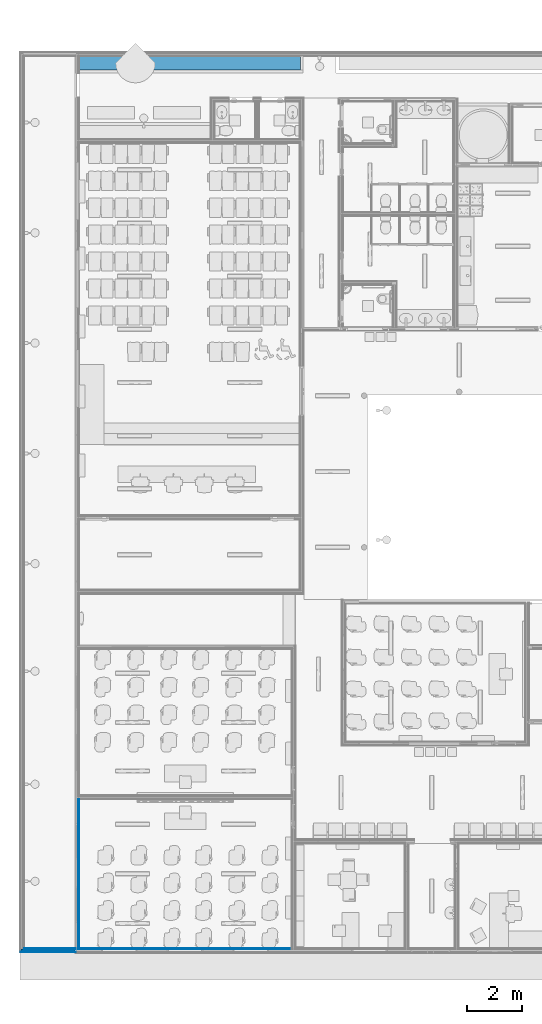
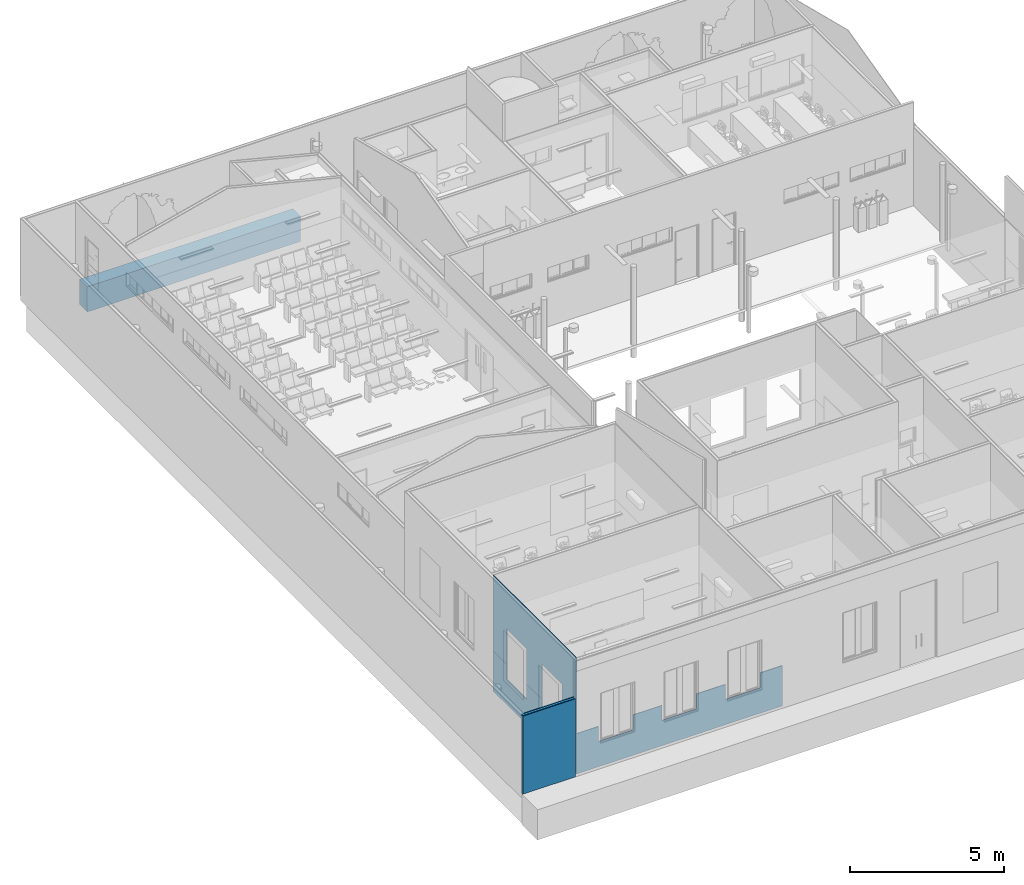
# One storey, part 2 of 155: 6 walls, 1 slab, 54 openings.
"""IFC2X3 building model written with IfcOpenShell, lengths in metres."""

from ifc_helpers import new_model, entity, si_unit, converted_unit, derived_unit, direction, frame, frame_2d, origin, origin_2d_with_axis, place, context, subcontext, project, spatial, rectangle, extrude, material, layer, layer_set, layer_usage, type_object, element, save


model = new_model("IFC2X3")

# Units and contexts
model_context = context("Model", 3, precision=1e-05, world=origin(), true_north=direction((6.12303176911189e-17, 1.0)))
body_context = subcontext(model_context, "Body", "Model", "MODEL_VIEW")
ifc_project = project(units=[si_unit("LENGTHUNIT", "METRE"), si_unit("AREAUNIT", "SQUARE_METRE"), si_unit("VOLUMEUNIT", "CUBIC_METRE"), converted_unit("PLANEANGLEUNIT", "DEGREE", entity("IfcRatioMeasure", 0.0174532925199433), si_unit("PLANEANGLEUNIT", "RADIAN"), dimensions=[0, 0, 0, 0, 0, 0, 0]), si_unit("MASSUNIT", "GRAM", prefix="KILO"), derived_unit("MASSDENSITYUNIT", [(si_unit("MASSUNIT", "GRAM", prefix="KILO"), 1), (si_unit("LENGTHUNIT", "METRE"), -3)]), si_unit("TIMEUNIT", "SECOND"), si_unit("FREQUENCYUNIT", "HERTZ"), si_unit("THERMODYNAMICTEMPERATUREUNIT", "DEGREE_CELSIUS"), derived_unit("THERMALTRANSMITTANCEUNIT", [(si_unit("MASSUNIT", "GRAM", prefix="KILO"), 1), (si_unit("THERMODYNAMICTEMPERATUREUNIT", "KELVIN"), -1), (si_unit("TIMEUNIT", "SECOND"), -3)]), derived_unit("VOLUMETRICFLOWRATEUNIT", [(si_unit("LENGTHUNIT", "METRE"), 3), (si_unit("TIMEUNIT", "SECOND"), -1)]), si_unit("ELECTRICCURRENTUNIT", "AMPERE"), si_unit("ELECTRICVOLTAGEUNIT", "VOLT"), si_unit("POWERUNIT", "WATT"), si_unit("FORCEUNIT", "NEWTON", prefix="KILO"), si_unit("ILLUMINANCEUNIT", "LUX"), si_unit("LUMINOUSFLUXUNIT", "LUMEN"), si_unit("LUMINOUSINTENSITYUNIT", "CANDELA"), derived_unit("USERDEFINED", [(si_unit("MASSUNIT", "GRAM", prefix="KILO"), -1), (si_unit("LENGTHUNIT", "METRE"), -2), (si_unit("TIMEUNIT", "SECOND"), 3), (si_unit("LUMINOUSFLUXUNIT", "LUMEN"), 1)]), derived_unit("LINEARVELOCITYUNIT", [(si_unit("LENGTHUNIT", "METRE"), 1), (si_unit("TIMEUNIT", "SECOND"), -1)]), si_unit("PRESSUREUNIT", "PASCAL"), derived_unit("USERDEFINED", [(si_unit("LENGTHUNIT", "METRE"), -2), (si_unit("MASSUNIT", "GRAM", prefix="KILO"), 1), (si_unit("TIMEUNIT", "SECOND"), -2)])], contexts=[model_context])

# Site, building, storey
site_placement = place(None, frame((26.9889013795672, -17.5624287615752, 0.0)))
site = spatial("IfcSite", under=ifc_project, at=site_placement, Name="Default", CompositionType="ELEMENT")
building_placement = place(site_placement, origin())
building = spatial("IfcBuilding", under=site, at=building_placement, Name="C. C. L. Monsenhor Antônio Sampaio", CompositionType="ELEMENT")
storey_placement = place(building_placement, frame((0.0, 0.0, 1.19999999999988)))
storey = spatial("IfcBuildingStorey", under=building, at=storey_placement, Name="Nível 1.2", CompositionType="ELEMENT", Elevation=1.19999999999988)

# Slab
ifc_material_1 = material(Name=".Grama")
ifc_layer_1 = layer(ifc_material_1, 1.0)
ifc_layer_set_1 = layer_set([ifc_layer_1], Name="Piso:Grama")
ifc_layer_usage_1 = layer_usage(ifc_layer_set_1, "AXIS3", "POSITIVE", 0.0)
slab_placement = place(storey_placement, origin())
element("IfcSlab", 1, at=slab_placement, inside=storey, material=ifc_layer_usage_1, Name="Piso:Grama", ObjectType="Piso:Grama", PredefinedType="FLOOR", context=body_context, shape_type="SweptSolid", body=[
    extrude(rectangle(XDim=0.500000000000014, YDim=8.01499999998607, at=frame_2d((0.0, -4.44089209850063e-16), x_axis=(1.0, 0.0))), frame((-9.98305229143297, -7.20306634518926, 0.0), z_axis=(0.0, 0.0, -1.0), x_axis=(0.0, 1.0, 0.0)), (0.0, 0.0, 1.0), 1.0),
])

# Wall, openings
ifc_material_2 = material(Name="ALVENARIA")
ifc_layer_2 = layer(ifc_material_2, 0.09)
ifc_layer_set_2 = layer_set([ifc_layer_2], Name="Parede básica:ENucleo parede 15cm")
ifc_layer_usage_2 = layer_usage(ifc_layer_set_2, "AXIS2", "POSITIVE", -0.045)
wall_type_1 = type_object("IfcWallType", Name="Parede básica:ENucleo parede 15cm", PredefinedType="STANDARD", material=ifc_layer_set_2)
wall_1_placement = place(storey_placement, frame((-14.1405522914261, -39.3780663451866, 0.0), z_axis=(0.0, 0.0, 1.0), x_axis=(-1.0, 0.0, 0.0)))
wall_1 = element("IfcWallStandardCase", 2, at=wall_1_placement, inside=storey, type_object=wall_type_1, material=ifc_layer_usage_2, Name="Parede básica:ENucleo parede 15cm", ObjectType="Parede básica:ENucleo parede 15cm", context=body_context, shape_type="SweptSolid", body=[
    extrude(rectangle(XDim=1.96994580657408, YDim=0.0899999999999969, at=frame_2d((0.984972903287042, -6.24500451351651e-17), x_axis=(-1.0, 0.0))), origin(), (0.0, 0.0, 1.0), 3.10000000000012),
])
opening_1_placement = place(wall_1_placement, origin())
element("IfcOpeningElement", 3, at=opening_1_placement, cuts=wall_1, Name="Parede básica:ENucleo parede 15cm", ObjectType="Opening", context=body_context, shape_type="SweptSolid", body=[
    extrude(rectangle(XDim=3.09999999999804, YDim=1.4, at=frame_2d((0.0, -3.33066907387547e-16), x_axis=(0.0, 1.0))), frame((-12.8899999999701, -1.56900000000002, 1.54999999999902), z_axis=(0.0, 1.0, 0.0), x_axis=(-1.0, 0.0, 0.0)), (0.0, 0.0, 1.0), 3.048),
])
opening_2_placement = place(wall_1_placement, origin())
element("IfcOpeningElement", 4, at=opening_2_placement, cuts=wall_1, Name="Parede básica:ENucleo parede 15cm", ObjectType="Opening", context=body_context, shape_type="SweptSolid", body=[
    extrude(rectangle(XDim=2.0, YDim=1.30000000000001, at=frame_2d((0.0, -3.88578058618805e-16), x_axis=(0.0, 1.0))), frame((-1.6, -1.47900000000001, 2.0), z_axis=(0.0, 1.0, 0.0), x_axis=(-1.0, 0.0, 0.0)), (0.0, 0.0, 1.0), 3.04799999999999),
])
opening_3_placement = place(wall_1_placement, origin())
element("IfcOpeningElement", 5, at=opening_3_placement, cuts=wall_1, Name="Parede básica:ENucleo parede 15cm", ObjectType="Opening", context=body_context, shape_type="SweptSolid", body=[
    extrude(rectangle(XDim=2.0, YDim=1.30000000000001, at=frame_2d((-4.9960036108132e-16, -3.88578058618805e-16), x_axis=(0.0, 1.0))), frame((-3.98, -1.47900000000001, 2.0), z_axis=(0.0, 1.0, 0.0), x_axis=(-1.0, 0.0, 0.0)), (0.0, 0.0, 1.0), 3.048),
])
opening_4_placement = place(wall_1_placement, origin())
element("IfcOpeningElement", 6, at=opening_4_placement, cuts=wall_1, Name="Parede básica:ENucleo parede 15cm", ObjectType="Opening", context=body_context, shape_type="SweptSolid", body=[
    extrude(rectangle(XDim=2.0, YDim=1.30000000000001, at=frame_2d((0.0, -3.88578058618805e-16), x_axis=(0.0, 1.0))), frame((-6.37, -1.47900000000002, 2.0), z_axis=(0.0, 1.0, 0.0), x_axis=(-1.0, 0.0, 0.0)), (0.0, 0.0, 1.0), 3.048),
])
opening_5_placement = place(wall_1_placement, origin())
element("IfcOpeningElement", 7, at=opening_5_placement, cuts=wall_1, Name="Parede básica:ENucleo parede 15cm", ObjectType="Opening", context=body_context, shape_type="SweptSolid", body=[
    extrude(rectangle(XDim=2.0, YDim=1.30000000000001, at=frame_2d((1.66533453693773e-16, 0.0), x_axis=(1.0, 0.0))), frame((-10.6799999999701, -1.47900000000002, 2.0), z_axis=(0.0, 1.0, 0.0), x_axis=(0.0, 0.0, 1.0)), (0.0, 0.0, 1.0), 3.04800000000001),
])
opening_6_placement = place(wall_1_placement, origin())
element("IfcOpeningElement", 8, at=opening_6_placement, cuts=wall_1, Name="Parede básica:ENucleo parede 15cm", ObjectType="Opening", context=body_context, shape_type="SweptSolid", body=[
    extrude(rectangle(XDim=2.0, YDim=1.30000000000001, at=frame_2d((1.66533453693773e-16, -1.11022302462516e-16), x_axis=(1.0, 0.0))), frame((-15.2199999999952, -1.56900000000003, 2.0), z_axis=(0.0, 1.0, 0.0), x_axis=(0.0, 0.0, 1.0)), (0.0, 0.0, 1.0), 3.048),
])
opening_7_placement = place(wall_1_placement, origin())
element("IfcOpeningElement", 9, at=opening_7_placement, cuts=wall_1, Name="Parede básica:ENucleo parede 15cm", ObjectType="Opening", context=body_context, shape_type="SweptSolid", body=[
    extrude(rectangle(XDim=2.0, YDim=1.30000000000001, at=frame_2d((1.66533453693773e-16, -2.22044604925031e-16), x_axis=(1.0, 0.0))), frame((-19.4699999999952, -1.56900000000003, 2.0), z_axis=(0.0, 1.0, 0.0), x_axis=(0.0, 0.0, 1.0)), (0.0, 0.0, 1.0), 3.048),
])
opening_8_placement = place(wall_1_placement, origin())
element("IfcOpeningElement", 10, at=opening_8_placement, cuts=wall_1, Name="Parede básica:ENucleo parede 15cm", ObjectType="Opening", context=body_context, shape_type="SweptSolid", body=[
    extrude(rectangle(XDim=2.0, YDim=1.30000000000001, at=frame_2d((1.66533453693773e-16, 0.0), x_axis=(1.0, 0.0))), frame((-21.8499999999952, -1.56900000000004, 2.0), z_axis=(0.0, 1.0, 0.0), x_axis=(0.0, 0.0, 1.0)), (0.0, 0.0, 1.0), 3.048),
])
opening_9_placement = place(wall_1_placement, origin())
element("IfcOpeningElement", 11, at=opening_9_placement, cuts=wall_1, Name="Parede básica:ENucleo parede 15cm", ObjectType="Opening", context=body_context, shape_type="SweptSolid", body=[
    extrude(rectangle(XDim=2.0, YDim=1.30000000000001, at=frame_2d((1.66533453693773e-16, 0.0), x_axis=(1.0, 0.0))), frame((-24.2299999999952, -1.56900000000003, 2.0), z_axis=(0.0, 1.0, 0.0), x_axis=(0.0, 0.0, 1.0)), (0.0, 0.0, 1.0), 3.048),
])

ifc_material_3 = material(Name=".CERÂMICA 10x10 BRANCA")
ifc_layer_3 = layer(ifc_material_3, 0.0035)
ifc_material_4 = material(Name="Argamassa Colante")
ifc_layer_4 = layer(ifc_material_4, 0.02)
ifc_material_5 = material(Name="4")
ifc_layer_5 = layer(ifc_material_5, 0.0015)
ifc_material_6 = material(Name="3")
ifc_layer_6 = layer(ifc_material_6, 0.005)
ifc_layer_set_3 = layer_set([ifc_layer_3, ifc_layer_4, ifc_layer_5, ifc_layer_6], Name="Parede básica:ECeramica branca 10x10cm")
ifc_layer_usage_3 = layer_usage(ifc_layer_set_3, "AXIS2", "POSITIVE", -0.015)
wall_type_2 = type_object("IfcWallType", Name="Parede básica:ECeramica branca 10x10cm", PredefinedType="STANDARD", material=ifc_layer_set_3)
wall_2_placement = place(storey_placement, frame((-6.29055229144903, -39.3180663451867, 0.0), z_axis=(0.0, 0.0, 1.0), x_axis=(-1.0, 0.0, 0.0)))
wall_2 = element("IfcWallStandardCase", 12, at=wall_2_placement, inside=storey, type_object=wall_type_2, material=ifc_layer_usage_3, Name="Parede básica:ECeramica branca 10x10cm", ObjectType="Parede básica:ECeramica branca 10x10cm", context=body_context, shape_type="SweptSolid", body=[
    extrude(rectangle(XDim=7.72999999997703, YDim=0.0299999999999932, at=frame_2d((3.86499999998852, 0.0), x_axis=(-1.0, 0.0))), origin(), (0.0, 0.0, 1.0), 1.6),
])
opening_10_placement = place(wall_2_placement, origin())
element("IfcOpeningElement", 13, at=opening_10_placement, cuts=wall_2, Name="Parede básica:ECeramica branca 10x10cm", ObjectType="Opening", context=body_context, shape_type="SweptSolid", body=[
    extrude(rectangle(XDim=2.0, YDim=1.30000000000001, at=frame_2d((0.0, -3.88578058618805e-16), x_axis=(0.0, 1.0))), frame((6.24999999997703, -1.419, 2.0), z_axis=(0.0, 1.0, 0.0), x_axis=(-1.0, 0.0, 0.0)), (0.0, 0.0, 1.0), 3.048),
])
opening_11_placement = place(wall_2_placement, origin())
element("IfcOpeningElement", 14, at=opening_11_placement, cuts=wall_2, Name="Parede básica:ECeramica branca 10x10cm", ObjectType="Opening", context=body_context, shape_type="SweptSolid", body=[
    extrude(rectangle(XDim=2.0, YDim=1.30000000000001, at=frame_2d((-4.9960036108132e-16, -3.88578058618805e-16), x_axis=(0.0, 1.0))), frame((3.86999999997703, -1.419, 2.0), z_axis=(0.0, 1.0, 0.0), x_axis=(-1.0, 0.0, 0.0)), (0.0, 0.0, 1.0), 3.048),
])
opening_12_placement = place(wall_2_placement, origin())
element("IfcOpeningElement", 15, at=opening_12_placement, cuts=wall_2, Name="Parede básica:ECeramica branca 10x10cm", ObjectType="Opening", context=body_context, shape_type="SweptSolid", body=[
    extrude(rectangle(XDim=2.0, YDim=1.30000000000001, at=frame_2d((0.0, -3.88578058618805e-16), x_axis=(0.0, 1.0))), frame((1.47999999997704, -1.41900000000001, 2.0), z_axis=(0.0, 1.0, 0.0), x_axis=(-1.0, 0.0, 0.0)), (0.0, 0.0, 1.0), 3.048),
])
opening_13_placement = place(wall_2_placement, origin())
element("IfcOpeningElement", 16, at=opening_13_placement, cuts=wall_2, Name="Parede básica:ECeramica branca 10x10cm", ObjectType="Opening", context=body_context, shape_type="SweptSolid", body=[
    extrude(rectangle(XDim=3.09999999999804, YDim=1.4, at=frame_2d((0.0, -3.33066907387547e-16), x_axis=(0.0, 1.0))), frame((-5.03999999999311, -1.509, 1.54999999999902), z_axis=(0.0, 1.0, 0.0), x_axis=(-1.0, 0.0, 0.0)), (0.0, 0.0, 1.0), 3.04799999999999),
])
opening_14_placement = place(wall_2_placement, origin())
element("IfcOpeningElement", 17, at=opening_14_placement, cuts=wall_2, Name="Parede básica:ECeramica branca 10x10cm", ObjectType="Opening", context=body_context, shape_type="SweptSolid", body=[
    extrude(rectangle(XDim=2.0, YDim=1.30000000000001, at=frame_2d((1.66533453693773e-16, 0.0), x_axis=(1.0, 0.0))), frame((-2.82999999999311, -1.41900000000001, 2.0), z_axis=(0.0, 1.0, 0.0), x_axis=(0.0, 0.0, 1.0)), (0.0, 0.0, 1.0), 3.048),
])
opening_15_placement = place(wall_2_placement, origin())
element("IfcOpeningElement", 18, at=opening_15_placement, cuts=wall_2, Name="Parede básica:ECeramica branca 10x10cm", ObjectType="Opening", context=body_context, shape_type="SweptSolid", body=[
    extrude(rectangle(XDim=2.0, YDim=1.30000000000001, at=frame_2d((1.66533453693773e-16, -1.11022302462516e-16), x_axis=(1.0, 0.0))), frame((-7.37000000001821, -1.509, 2.0), z_axis=(0.0, 1.0, 0.0), x_axis=(0.0, 0.0, 1.0)), (0.0, 0.0, 1.0), 3.04800000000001),
])
opening_16_placement = place(wall_2_placement, origin())
element("IfcOpeningElement", 19, at=opening_16_placement, cuts=wall_2, Name="Parede básica:ECeramica branca 10x10cm", ObjectType="Opening", context=body_context, shape_type="SweptSolid", body=[
    extrude(rectangle(XDim=2.0, YDim=1.30000000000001, at=frame_2d((1.66533453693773e-16, -2.22044604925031e-16), x_axis=(1.0, 0.0))), frame((-11.6200000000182, -1.509, 2.0), z_axis=(0.0, 1.0, 0.0), x_axis=(0.0, 0.0, 1.0)), (0.0, 0.0, 1.0), 3.048),
])
opening_17_placement = place(wall_2_placement, origin())
element("IfcOpeningElement", 20, at=opening_17_placement, cuts=wall_2, Name="Parede básica:ECeramica branca 10x10cm", ObjectType="Opening", context=body_context, shape_type="SweptSolid", body=[
    extrude(rectangle(XDim=2.0, YDim=1.30000000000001, at=frame_2d((1.66533453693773e-16, 0.0), x_axis=(1.0, 0.0))), frame((-14.0, -1.50900000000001, 2.0), z_axis=(0.0, 1.0, 0.0), x_axis=(0.0, 0.0, 1.0)), (0.0, 0.0, 1.0), 3.048),
])
opening_18_placement = place(wall_2_placement, origin())
element("IfcOpeningElement", 21, at=opening_18_placement, cuts=wall_2, Name="Parede básica:ECeramica branca 10x10cm", ObjectType="Opening", context=body_context, shape_type="SweptSolid", body=[
    extrude(rectangle(XDim=2.0, YDim=1.30000000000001, at=frame_2d((1.66533453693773e-16, 0.0), x_axis=(1.0, 0.0))), frame((-16.3800000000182, -1.509, 2.0), z_axis=(0.0, 1.0, 0.0), x_axis=(0.0, 0.0, 1.0)), (0.0, 0.0, 1.0), 3.048),
])

ifc_layer_usage_4 = layer_usage(ifc_layer_set_3, "AXIS2", "POSITIVE", -0.015)
wall_3_placement = place(storey_placement, frame((-14.0055522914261, -39.3030663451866, 0.0), z_axis=(0.0, 0.0, 1.0), x_axis=(0.0, 1.0, 0.0)))
wall_3 = element("IfcWallStandardCase", 22, at=wall_3_placement, inside=storey, type_object=wall_type_2, material=ifc_layer_usage_4, Name="Parede básica:ECeramica branca 10x10cm", ObjectType="Parede básica:ECeramica branca 10x10cm", context=body_context, shape_type="SweptSolid", body=[
    extrude(rectangle(XDim=5.39999999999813, YDim=0.0300000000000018, at=frame_2d((2.69999999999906, 0.0), x_axis=(-1.0, 0.0))), origin(), (0.0, 0.0, 1.0), 1.6),
])
opening_19_placement = place(wall_3_placement, origin())
element("IfcOpeningElement", 23, at=opening_19_placement, cuts=wall_3, Name="Parede básica:ECeramica branca 10x10cm", ObjectType="Opening", context=body_context, shape_type="SweptSolid", body=[
    extrude(rectangle(XDim=2.0, YDim=1.30000000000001, at=frame_2d((1.66533453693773e-16, 0.0), x_axis=(1.0, 0.0))), frame((3.87999999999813, -1.509, 2.0), z_axis=(0.0, 1.0, 0.0), x_axis=(0.0, 0.0, 1.0)), (0.0, 0.0, 1.0), 3.048),
])
opening_20_placement = place(wall_3_placement, origin())
element("IfcOpeningElement", 24, at=opening_20_placement, cuts=wall_3, Name="Parede básica:ECeramica branca 10x10cm", ObjectType="Opening", context=body_context, shape_type="SweptSolid", body=[
    extrude(rectangle(XDim=2.0, YDim=1.30000000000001, at=frame_2d((1.66533453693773e-16, 0.0), x_axis=(1.0, 0.0))), frame((1.57999999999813, -1.509, 2.0), z_axis=(0.0, 1.0, 0.0), x_axis=(0.0, 0.0, 1.0)), (0.0, 0.0, 1.0), 3.048),
])
opening_21_placement = place(wall_3_placement, origin())
element("IfcOpeningElement", 25, at=opening_21_placement, cuts=wall_3, Name="Parede básica:ECeramica branca 10x10cm", ObjectType="Opening", context=body_context, shape_type="SweptSolid", body=[
    extrude(rectangle(XDim=2.0, YDim=1.30000000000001, at=frame_2d((1.66533453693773e-16, -4.32986979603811e-15), x_axis=(1.0, 0.0))), frame((9.30000000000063, -1.509, 2.0), z_axis=(0.0, 1.0, 0.0), x_axis=(0.0, 0.0, 1.0)), (0.0, 0.0, 1.0), 3.048),
])
opening_22_placement = place(wall_3_placement, origin())
element("IfcOpeningElement", 26, at=opening_22_placement, cuts=wall_3, Name="Parede básica:ECeramica branca 10x10cm", ObjectType="Opening", context=body_context, shape_type="SweptSolid", body=[
    extrude(rectangle(XDim=2.0, YDim=1.30000000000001, at=frame_2d((4.32986979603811e-15, -3.88578058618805e-16), x_axis=(0.0, 1.0))), frame((7.10000000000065, -1.419, 2.0), z_axis=(0.0, 1.0, 0.0), x_axis=(-1.0, 0.0, 0.0)), (0.0, 0.0, 1.0), 3.048),
])
opening_23_placement = place(wall_3_placement, origin())
element("IfcOpeningElement", 27, at=opening_23_placement, cuts=wall_3, Name="Parede básica:ECeramica branca 10x10cm", ObjectType="Opening", context=body_context, shape_type="SweptSolid", body=[
    extrude(rectangle(XDim=0.569999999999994, YDim=3.06999999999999, at=frame_2d((0.0, -9.99200722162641e-16), x_axis=(1.0, 0.0))), frame((27.5300000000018, -1.509, 2.05000000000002), z_axis=(0.0, 1.0, 0.0), x_axis=(0.0, 0.0, 1.0)), (0.0, 0.0, 1.0), 3.048),
])
opening_24_placement = place(wall_3_placement, origin())
element("IfcOpeningElement", 28, at=opening_24_placement, cuts=wall_3, Name="Parede básica:ECeramica branca 10x10cm", ObjectType="Opening", context=body_context, shape_type="SweptSolid", body=[
    extrude(rectangle(XDim=0.569999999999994, YDim=3.06999999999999, at=frame_2d((0.0, -9.99200722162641e-16), x_axis=(1.0, 0.0))), frame((23.8300000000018, -1.509, 2.05000000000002), z_axis=(0.0, 1.0, 0.0), x_axis=(0.0, 0.0, 1.0)), (0.0, 0.0, 1.0), 3.048),
])
opening_25_placement = place(wall_3_placement, origin())
element("IfcOpeningElement", 29, at=opening_25_placement, cuts=wall_3, Name="Parede básica:ECeramica branca 10x10cm", ObjectType="Opening", context=body_context, shape_type="SweptSolid", body=[
    extrude(rectangle(XDim=0.569999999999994, YDim=3.06999999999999, at=frame_2d((0.0, -9.99200722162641e-16), x_axis=(1.0, 0.0))), frame((20.1300000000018, -1.509, 2.05000000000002), z_axis=(0.0, 1.0, 0.0), x_axis=(0.0, 0.0, 1.0)), (0.0, 0.0, 1.0), 3.048),
])
opening_26_placement = place(wall_3_placement, origin())
element("IfcOpeningElement", 30, at=opening_26_placement, cuts=wall_3, Name="Parede básica:ECeramica branca 10x10cm", ObjectType="Opening", context=body_context, shape_type="SweptSolid", body=[
    extrude(rectangle(XDim=0.570000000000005, YDim=2.07, at=frame_2d((5.27355936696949e-16, 0.0), x_axis=(1.0, 0.0))), frame((14.2900000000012, -1.509, 2.05000000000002), z_axis=(0.0, 1.0, 0.0), x_axis=(0.0, 0.0, 1.0)), (0.0, 0.0, 1.0), 3.048),
])
opening_27_placement = place(wall_3_placement, origin())
element("IfcOpeningElement", 31, at=opening_27_placement, cuts=wall_3, Name="Parede básica:ECeramica branca 10x10cm", ObjectType="Opening", context=body_context, shape_type="SweptSolid", body=[
    extrude(rectangle(XDim=2.15999999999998, YDim=0.879999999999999, at=origin_2d_with_axis()), frame((31.2899999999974, -1.419, 1.07999999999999), z_axis=(0.0, 1.0, 0.0), x_axis=(0.0, 0.0, 1.0)), (0.0, 0.0, 1.0), 3.048),
])

ifc_material_7 = material(Name="Acabamento Branco")
ifc_layer_7 = layer(ifc_material_7, 0.0035)
ifc_material_8 = material(Name="Massa corrida")
ifc_layer_8 = layer(ifc_material_8, 0.02)
ifc_layer_9 = layer(ifc_material_5, 0.0015)
ifc_layer_10 = layer(ifc_material_6, 0.005)
ifc_layer_set_4 = layer_set([ifc_layer_7, ifc_layer_8, ifc_layer_9, ifc_layer_10], Name="Parede básica:EPintura Branca")
ifc_layer_usage_5 = layer_usage(ifc_layer_set_4, "AXIS2", "POSITIVE", -0.015)
wall_type_3 = type_object("IfcWallType", Name="Parede básica:EPintura Branca", PredefinedType="STANDARD", material=ifc_layer_set_4)
wall_4_placement = place(storey_placement, frame((-14.0055522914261, -39.3030663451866, 1.6), z_axis=(0.0, 0.0, 1.0), x_axis=(0.0, 1.0, 0.0)))
wall_4 = element("IfcWallStandardCase", 32, at=wall_4_placement, inside=storey, type_object=wall_type_3, material=ifc_layer_usage_5, Name="Parede básica:EPintura Branca", ObjectType="Parede básica:EPintura Branca", context=body_context, shape_type="SweptSolid", body=[
    extrude(rectangle(XDim=5.39999999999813, YDim=0.0300000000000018, at=frame_2d((2.69999999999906, 0.0), x_axis=(-1.0, 0.0))), origin(), (0.0, 0.0, 1.0), 3.00000000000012),
])
opening_28_placement = place(wall_4_placement, origin())
element("IfcOpeningElement", 33, at=opening_28_placement, cuts=wall_4, Name="Parede básica:EPintura Branca", ObjectType="Opening", context=body_context, shape_type="SweptSolid", body=[
    extrude(rectangle(XDim=2.0, YDim=1.30000000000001, at=frame_2d((1.66533453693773e-16, 0.0), x_axis=(1.0, 0.0))), frame((3.87999999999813, -1.509, 0.400000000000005), z_axis=(0.0, 1.0, 0.0), x_axis=(0.0, 0.0, 1.0)), (0.0, 0.0, 1.0), 3.048),
])
opening_29_placement = place(wall_4_placement, origin())
element("IfcOpeningElement", 34, at=opening_29_placement, cuts=wall_4, Name="Parede básica:EPintura Branca", ObjectType="Opening", context=body_context, shape_type="SweptSolid", body=[
    extrude(rectangle(XDim=2.0, YDim=1.30000000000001, at=frame_2d((1.66533453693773e-16, 0.0), x_axis=(1.0, 0.0))), frame((1.57999999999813, -1.509, 0.400000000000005), z_axis=(0.0, 1.0, 0.0), x_axis=(0.0, 0.0, 1.0)), (0.0, 0.0, 1.0), 3.048),
])
opening_30_placement = place(wall_4_placement, origin())
element("IfcOpeningElement", 35, at=opening_30_placement, cuts=wall_4, Name="Parede básica:EPintura Branca", ObjectType="Opening", context=body_context, shape_type="SweptSolid", body=[
    extrude(rectangle(XDim=2.0, YDim=1.30000000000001, at=frame_2d((1.66533453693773e-16, -4.32986979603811e-15), x_axis=(1.0, 0.0))), frame((9.30000000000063, -1.509, 0.400000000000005), z_axis=(0.0, 1.0, 0.0), x_axis=(0.0, 0.0, 1.0)), (0.0, 0.0, 1.0), 3.048),
])
opening_31_placement = place(wall_4_placement, origin())
element("IfcOpeningElement", 36, at=opening_31_placement, cuts=wall_4, Name="Parede básica:EPintura Branca", ObjectType="Opening", context=body_context, shape_type="SweptSolid", body=[
    extrude(rectangle(XDim=2.0, YDim=1.30000000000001, at=frame_2d((4.32986979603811e-15, -3.88578058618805e-16), x_axis=(0.0, 1.0))), frame((7.10000000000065, -1.419, 0.400000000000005), z_axis=(0.0, 1.0, 0.0), x_axis=(-1.0, 0.0, 0.0)), (0.0, 0.0, 1.0), 3.048),
])
opening_32_placement = place(wall_4_placement, origin())
element("IfcOpeningElement", 37, at=opening_32_placement, cuts=wall_4, Name="Parede básica:EPintura Branca", ObjectType="Opening", context=body_context, shape_type="SweptSolid", body=[
    extrude(rectangle(XDim=0.569999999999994, YDim=3.06999999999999, at=frame_2d((0.0, -9.99200722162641e-16), x_axis=(1.0, 0.0))), frame((27.5300000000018, -1.509, 0.45000000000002), z_axis=(0.0, 1.0, 0.0), x_axis=(0.0, 0.0, 1.0)), (0.0, 0.0, 1.0), 3.048),
])
opening_33_placement = place(wall_4_placement, origin())
element("IfcOpeningElement", 38, at=opening_33_placement, cuts=wall_4, Name="Parede básica:EPintura Branca", ObjectType="Opening", context=body_context, shape_type="SweptSolid", body=[
    extrude(rectangle(XDim=0.569999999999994, YDim=3.06999999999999, at=frame_2d((0.0, -9.99200722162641e-16), x_axis=(1.0, 0.0))), frame((23.8300000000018, -1.509, 0.45000000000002), z_axis=(0.0, 1.0, 0.0), x_axis=(0.0, 0.0, 1.0)), (0.0, 0.0, 1.0), 3.048),
])
opening_34_placement = place(wall_4_placement, origin())
element("IfcOpeningElement", 39, at=opening_34_placement, cuts=wall_4, Name="Parede básica:EPintura Branca", ObjectType="Opening", context=body_context, shape_type="SweptSolid", body=[
    extrude(rectangle(XDim=0.569999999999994, YDim=3.06999999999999, at=frame_2d((0.0, -9.99200722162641e-16), x_axis=(1.0, 0.0))), frame((20.1300000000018, -1.509, 0.45000000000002), z_axis=(0.0, 1.0, 0.0), x_axis=(0.0, 0.0, 1.0)), (0.0, 0.0, 1.0), 3.048),
])
opening_35_placement = place(wall_4_placement, origin())
element("IfcOpeningElement", 40, at=opening_35_placement, cuts=wall_4, Name="Parede básica:EPintura Branca", ObjectType="Opening", context=body_context, shape_type="SweptSolid", body=[
    extrude(rectangle(XDim=0.570000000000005, YDim=2.07, at=frame_2d((5.27355936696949e-16, 0.0), x_axis=(1.0, 0.0))), frame((14.2900000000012, -1.509, 0.450000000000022), z_axis=(0.0, 1.0, 0.0), x_axis=(0.0, 0.0, 1.0)), (0.0, 0.0, 1.0), 3.048),
])
opening_36_placement = place(wall_4_placement, origin())
element("IfcOpeningElement", 41, at=opening_36_placement, cuts=wall_4, Name="Parede básica:EPintura Branca", ObjectType="Opening", context=body_context, shape_type="SweptSolid", body=[
    extrude(rectangle(XDim=2.15999999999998, YDim=0.879999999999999, at=origin_2d_with_axis()), frame((31.2899999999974, -1.419, -0.520000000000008), z_axis=(0.0, 1.0, 0.0), x_axis=(0.0, 0.0, 1.0)), (0.0, 0.0, 1.0), 3.048),
])

ifc_material_9 = material(Name="Acabamento amarelo")
ifc_layer_11 = layer(ifc_material_9, 0.0035)
ifc_layer_12 = layer(ifc_material_8, 0.02)
ifc_layer_13 = layer(ifc_material_5, 0.0015)
ifc_layer_14 = layer(ifc_material_6, 0.005)
ifc_layer_set_5 = layer_set([ifc_layer_11, ifc_layer_12, ifc_layer_13, ifc_layer_14], Name="Parede básica:EPintura amarela")
ifc_layer_usage_6 = layer_usage(ifc_layer_set_5, "AXIS2", "POSITIVE", -0.015)
wall_type_4 = type_object("IfcWallType", Name="Parede básica:EPintura amarela", PredefinedType="STANDARD", material=ifc_layer_set_5)
wall_5_placement = place(storey_placement, frame((-16.1104980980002, -39.4380663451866, 0.0)))
wall_5 = element("IfcWallStandardCase", 42, at=wall_5_placement, inside=storey, type_object=wall_type_4, material=ifc_layer_usage_6, Name="Parede básica:EPintura amarela", ObjectType="Parede básica:EPintura amarela", context=body_context, shape_type="SweptSolid", body=[
    extrude(rectangle(XDim=1.98494580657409, YDim=0.0299999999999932, at=frame_2d((0.992472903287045, -3.29597460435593e-17), x_axis=(-1.0, 0.0))), origin(), (0.0, 0.0, 1.0), 3.10000000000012),
])
opening_37_placement = place(wall_5_placement, origin())
element("IfcOpeningElement", 43, at=opening_37_placement, cuts=wall_5, Name="Parede básica:EPintura amarela", ObjectType="Opening", context=body_context, shape_type="SweptSolid", body=[
    extrude(rectangle(XDim=3.09999999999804, YDim=1.4, at=frame_2d((-3.33066907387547e-16, 0.0), x_axis=(1.0, 0.0))), frame((14.8599458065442, -1.41899999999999, 1.54999999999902), z_axis=(0.0, 1.0, 0.0), x_axis=(0.0, 0.0, 1.0)), (0.0, 0.0, 1.0), 3.048),
])
opening_38_placement = place(wall_5_placement, origin())
element("IfcOpeningElement", 44, at=opening_38_placement, cuts=wall_5, Name="Parede básica:EPintura amarela", ObjectType="Opening", context=body_context, shape_type="SweptSolid", body=[
    extrude(rectangle(XDim=2.0, YDim=1.30000000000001, at=frame_2d((1.66533453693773e-16, 0.0), x_axis=(1.0, 0.0))), frame((3.56994580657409, -1.509, 2.0), z_axis=(0.0, 1.0, 0.0), x_axis=(0.0, 0.0, 1.0)), (0.0, 0.0, 1.0), 3.04799999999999),
])
opening_39_placement = place(wall_5_placement, origin())
element("IfcOpeningElement", 45, at=opening_39_placement, cuts=wall_5, Name="Parede básica:EPintura amarela", ObjectType="Opening", context=body_context, shape_type="SweptSolid", body=[
    extrude(rectangle(XDim=2.0, YDim=1.30000000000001, at=frame_2d((1.66533453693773e-16, 0.0), x_axis=(1.0, 0.0))), frame((5.94994580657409, -1.509, 2.0), z_axis=(0.0, 1.0, 0.0), x_axis=(0.0, 0.0, 1.0)), (0.0, 0.0, 1.0), 3.048),
])
opening_40_placement = place(wall_5_placement, origin())
element("IfcOpeningElement", 46, at=opening_40_placement, cuts=wall_5, Name="Parede básica:EPintura amarela", ObjectType="Opening", context=body_context, shape_type="SweptSolid", body=[
    extrude(rectangle(XDim=2.0, YDim=1.30000000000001, at=frame_2d((1.66533453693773e-16, 0.0), x_axis=(1.0, 0.0))), frame((8.33994580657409, -1.50899999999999, 2.0), z_axis=(0.0, 1.0, 0.0), x_axis=(0.0, 0.0, 1.0)), (0.0, 0.0, 1.0), 3.048),
])
opening_41_placement = place(wall_5_placement, origin())
element("IfcOpeningElement", 47, at=opening_41_placement, cuts=wall_5, Name="Parede básica:EPintura amarela", ObjectType="Opening", context=body_context, shape_type="SweptSolid", body=[
    extrude(rectangle(XDim=2.0, YDim=1.30000000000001, at=frame_2d((0.0, -3.88578058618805e-16), x_axis=(0.0, 1.0))), frame((12.6499458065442, -1.50899999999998, 2.0), z_axis=(0.0, 1.0, 0.0), x_axis=(-1.0, 0.0, 0.0)), (0.0, 0.0, 1.0), 3.04800000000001),
])
opening_42_placement = place(wall_5_placement, origin())
element("IfcOpeningElement", 48, at=opening_42_placement, cuts=wall_5, Name="Parede básica:EPintura amarela", ObjectType="Opening", context=body_context, shape_type="SweptSolid", body=[
    extrude(rectangle(XDim=2.0, YDim=1.30000000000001, at=frame_2d((0.0, -3.88578058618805e-16), x_axis=(0.0, 1.0))), frame((17.1899458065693, -1.41899999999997, 2.0), z_axis=(0.0, 1.0, 0.0), x_axis=(-1.0, 0.0, 0.0)), (0.0, 0.0, 1.0), 3.048),
])
opening_43_placement = place(wall_5_placement, origin())
element("IfcOpeningElement", 49, at=opening_43_placement, cuts=wall_5, Name="Parede básica:EPintura amarela", ObjectType="Opening", context=body_context, shape_type="SweptSolid", body=[
    extrude(rectangle(XDim=2.0, YDim=1.30000000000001, at=frame_2d((5.55111512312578e-16, -3.88578058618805e-16), x_axis=(0.0, 1.0))), frame((21.4399458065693, -1.41899999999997, 2.0), z_axis=(0.0, 1.0, 0.0), x_axis=(-1.0, 0.0, 0.0)), (0.0, 0.0, 1.0), 3.048),
])
opening_44_placement = place(wall_5_placement, origin())
element("IfcOpeningElement", 50, at=opening_44_placement, cuts=wall_5, Name="Parede básica:EPintura amarela", ObjectType="Opening", context=body_context, shape_type="SweptSolid", body=[
    extrude(rectangle(XDim=2.0, YDim=1.30000000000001, at=frame_2d((0.0, -3.88578058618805e-16), x_axis=(0.0, 1.0))), frame((23.8199458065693, -1.41899999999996, 2.0), z_axis=(0.0, 1.0, 0.0), x_axis=(-1.0, 0.0, 0.0)), (0.0, 0.0, 1.0), 3.048),
])
opening_45_placement = place(wall_5_placement, origin())
element("IfcOpeningElement", 51, at=opening_45_placement, cuts=wall_5, Name="Parede básica:EPintura amarela", ObjectType="Opening", context=body_context, shape_type="SweptSolid", body=[
    extrude(rectangle(XDim=2.0, YDim=1.30000000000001, at=frame_2d((-4.9960036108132e-16, -3.88578058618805e-16), x_axis=(0.0, 1.0))), frame((26.1999458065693, -1.41899999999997, 2.0), z_axis=(0.0, 1.0, 0.0), x_axis=(-1.0, 0.0, 0.0)), (0.0, 0.0, 1.0), 3.048),
])

ifc_layer_usage_7 = layer_usage(ifc_layer_set_5, "AXIS2", "NEGATIVE", 0.015)
wall_6_placement = place(storey_placement, frame((-15.9904980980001, -39.3180663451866, 0.0)))
wall_6 = element("IfcWallStandardCase", 52, at=wall_6_placement, inside=storey, type_object=wall_type_4, material=ifc_layer_usage_7, Name="Parede básica:EPintura amarela", ObjectType="Parede básica:EPintura amarela", context=body_context, shape_type="SweptSolid", body=[
    extrude(rectangle(XDim=1.87994580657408, YDim=0.0299999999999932, at=frame_2d((0.939972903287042, 0.0), x_axis=(-1.0, 0.0))), origin(), (0.0, 0.0, 1.0), 3.10000000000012),
])
opening_46_placement = place(wall_6_placement, origin())
element("IfcOpeningElement", 53, at=opening_46_placement, cuts=wall_6, Name="Parede básica:EPintura amarela", ObjectType="Opening", context=body_context, shape_type="SweptSolid", body=[
    extrude(rectangle(XDim=3.09999999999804, YDim=1.4, at=frame_2d((-3.33066907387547e-16, 0.0), x_axis=(1.0, 0.0))), frame((14.7399458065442, -1.53899999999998, 1.54999999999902), z_axis=(0.0, 1.0, 0.0), x_axis=(0.0, 0.0, 1.0)), (0.0, 0.0, 1.0), 3.048),
])
opening_47_placement = place(wall_6_placement, origin())
element("IfcOpeningElement", 54, at=opening_47_placement, cuts=wall_6, Name="Parede básica:EPintura amarela", ObjectType="Opening", context=body_context, shape_type="SweptSolid", body=[
    extrude(rectangle(XDim=2.0, YDim=1.30000000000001, at=frame_2d((1.66533453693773e-16, 0.0), x_axis=(1.0, 0.0))), frame((3.44994580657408, -1.629, 2.0), z_axis=(0.0, 1.0, 0.0), x_axis=(0.0, 0.0, 1.0)), (0.0, 0.0, 1.0), 3.048),
])
opening_48_placement = place(wall_6_placement, origin())
element("IfcOpeningElement", 55, at=opening_48_placement, cuts=wall_6, Name="Parede básica:EPintura amarela", ObjectType="Opening", context=body_context, shape_type="SweptSolid", body=[
    extrude(rectangle(XDim=2.0, YDim=1.30000000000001, at=frame_2d((1.66533453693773e-16, 0.0), x_axis=(1.0, 0.0))), frame((5.82994580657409, -1.62899999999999, 2.0), z_axis=(0.0, 1.0, 0.0), x_axis=(0.0, 0.0, 1.0)), (0.0, 0.0, 1.0), 3.04799999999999),
])
opening_49_placement = place(wall_6_placement, origin())
element("IfcOpeningElement", 56, at=opening_49_placement, cuts=wall_6, Name="Parede básica:EPintura amarela", ObjectType="Opening", context=body_context, shape_type="SweptSolid", body=[
    extrude(rectangle(XDim=2.0, YDim=1.30000000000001, at=frame_2d((1.66533453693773e-16, 0.0), x_axis=(1.0, 0.0))), frame((8.21994580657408, -1.62899999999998, 2.0), z_axis=(0.0, 1.0, 0.0), x_axis=(0.0, 0.0, 1.0)), (0.0, 0.0, 1.0), 3.048),
])
opening_50_placement = place(wall_6_placement, origin())
element("IfcOpeningElement", 57, at=opening_50_placement, cuts=wall_6, Name="Parede básica:EPintura amarela", ObjectType="Opening", context=body_context, shape_type="SweptSolid", body=[
    extrude(rectangle(XDim=2.0, YDim=1.30000000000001, at=frame_2d((0.0, -3.88578058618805e-16), x_axis=(0.0, 1.0))), frame((12.5299458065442, -1.62899999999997, 2.0), z_axis=(0.0, 1.0, 0.0), x_axis=(-1.0, 0.0, 0.0)), (0.0, 0.0, 1.0), 3.048),
])
opening_51_placement = place(wall_6_placement, origin())
element("IfcOpeningElement", 58, at=opening_51_placement, cuts=wall_6, Name="Parede básica:EPintura amarela", ObjectType="Opening", context=body_context, shape_type="SweptSolid", body=[
    extrude(rectangle(XDim=2.0, YDim=1.30000000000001, at=frame_2d((0.0, -3.88578058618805e-16), x_axis=(0.0, 1.0))), frame((17.0699458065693, -1.53899999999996, 2.0), z_axis=(0.0, 1.0, 0.0), x_axis=(-1.0, 0.0, 0.0)), (0.0, 0.0, 1.0), 3.048),
])
opening_52_placement = place(wall_6_placement, origin())
element("IfcOpeningElement", 59, at=opening_52_placement, cuts=wall_6, Name="Parede básica:EPintura amarela", ObjectType="Opening", context=body_context, shape_type="SweptSolid", body=[
    extrude(rectangle(XDim=2.0, YDim=1.30000000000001, at=frame_2d((5.55111512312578e-16, -3.88578058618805e-16), x_axis=(0.0, 1.0))), frame((21.3199458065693, -1.53899999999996, 2.0), z_axis=(0.0, 1.0, 0.0), x_axis=(-1.0, 0.0, 0.0)), (0.0, 0.0, 1.0), 3.048),
])
opening_53_placement = place(wall_6_placement, origin())
element("IfcOpeningElement", 60, at=opening_53_placement, cuts=wall_6, Name="Parede básica:EPintura amarela", ObjectType="Opening", context=body_context, shape_type="SweptSolid", body=[
    extrude(rectangle(XDim=2.0, YDim=1.30000000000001, at=frame_2d((0.0, -3.88578058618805e-16), x_axis=(0.0, 1.0))), frame((23.6999458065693, -1.53899999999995, 2.0), z_axis=(0.0, 1.0, 0.0), x_axis=(-1.0, 0.0, 0.0)), (0.0, 0.0, 1.0), 3.048),
])
opening_54_placement = place(wall_6_placement, origin())
element("IfcOpeningElement", 61, at=opening_54_placement, cuts=wall_6, Name="Parede básica:EPintura amarela", ObjectType="Opening", context=body_context, shape_type="SweptSolid", body=[
    extrude(rectangle(XDim=2.0, YDim=1.30000000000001, at=frame_2d((-4.9960036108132e-16, -3.88578058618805e-16), x_axis=(0.0, 1.0))), frame((26.0799458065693, -1.53899999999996, 2.0), z_axis=(0.0, 1.0, 0.0), x_axis=(-1.0, 0.0, 0.0)), (0.0, 0.0, 1.0), 3.04800000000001),
])

save(model, "model.ifc")
